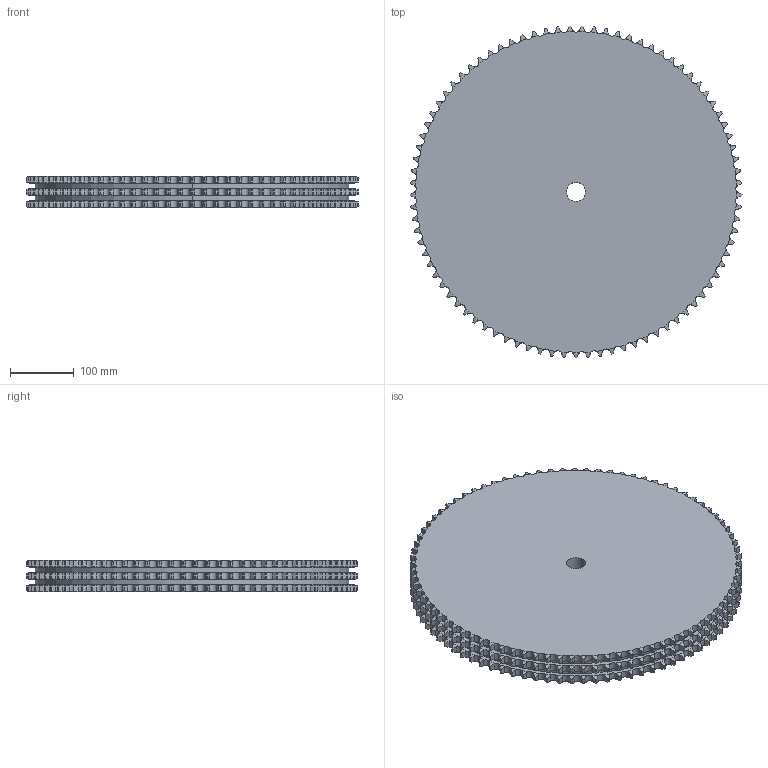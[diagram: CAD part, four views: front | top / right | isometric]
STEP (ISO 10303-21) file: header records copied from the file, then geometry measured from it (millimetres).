
FILE_DESCRIPTION((''),'2;1');
FILE_NAME('500-403-0085_PRT','2021-02-12T',('Brieden'),('Brieden'),'PRO/ENGINEER BY PARAMETRIC TECHNOLOGY CORPORATION, 2010160','PRO/ENGINEER BY PARAMETRIC TECHNOLOGY CORPORATION, 2010160','');
FILE_SCHEMA(('AUTOMOTIVE_DESIGN { 1 0 10303 214 1 1 1 1 }'));
Length unit declared in the file: millimetre
Products named in the file (1): 500-403-0085_PRT
Bounding box: 522.83 x 522.74 x 49.8 mm (x, y, z)
Volume: 9935077.5 mm3; surface area: 569852.1 mm2
Topology: 1 solids, 1 shells, 1542 faces, 4608 edges, 3072 vertices
Faces by surface type: cylinder 1026, torus 510, plane 6
Entity records: 77305 total; most frequent: CARTESIAN_POINT 24418, ORIENTED_EDGE 9216, DIRECTION 7194, PRESENTATION_STYLE_ASSIGNMENT 4609, STYLED_ITEM 4609, CURVE_STYLE 4608, EDGE_CURVE 4608, AXIS2_PLACEMENT_3D 3084
